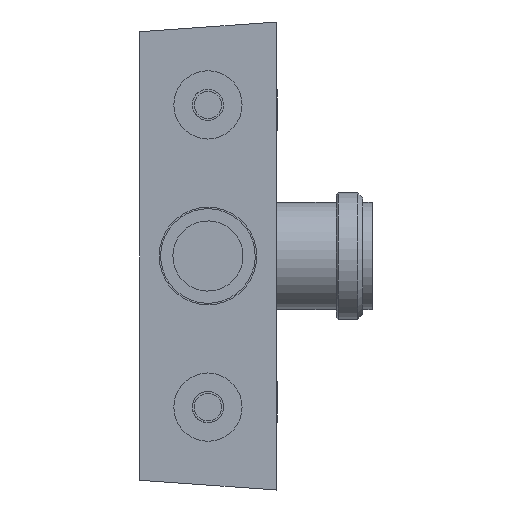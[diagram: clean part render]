
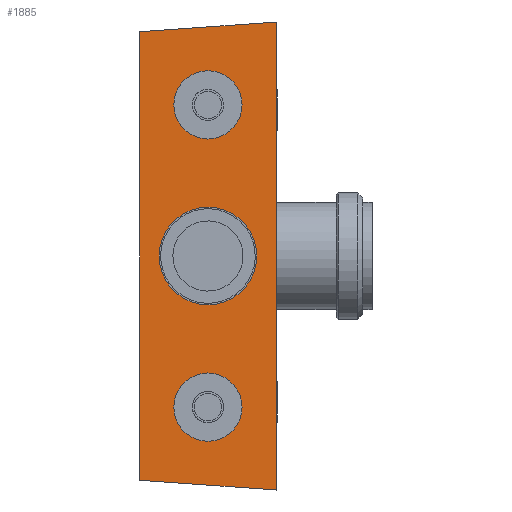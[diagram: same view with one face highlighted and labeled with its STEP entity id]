
A CAD part, front view. The second image highlights one B-rep face of the part: STEP entity #1885.
In plain terms, the highlighted planar face has unit normal (0, -1, 0).
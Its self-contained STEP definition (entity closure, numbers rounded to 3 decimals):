
#117=FACE_BOUND('',#324,.T.);
#118=FACE_BOUND('',#325,.T.);
#119=FACE_BOUND('',#326,.T.);
#163=CIRCLE('',#2122,25.);
#164=CIRCLE('',#2123,17.5);
#165=CIRCLE('',#2124,17.5);
#203=FACE_OUTER_BOUND('',#323,.T.);
#323=EDGE_LOOP('',(#1299,#1300,#1301,#1302));
#324=EDGE_LOOP('',(#1303));
#325=EDGE_LOOP('',(#1304));
#326=EDGE_LOOP('',(#1305));
#487=LINE('',#2762,#671);
#491=LINE('',#2771,#675);
#495=LINE('',#2778,#679);
#496=LINE('',#2779,#680);
#671=VECTOR('',#2275,10.);
#675=VECTOR('',#2281,10.);
#679=VECTOR('',#2287,10.);
#680=VECTOR('',#2288,10.);
#855=VERTEX_POINT('',#2760);
#856=VERTEX_POINT('',#2761);
#859=VERTEX_POINT('',#2769);
#860=VERTEX_POINT('',#2770);
#863=VERTEX_POINT('',#2780);
#864=VERTEX_POINT('',#2782);
#865=VERTEX_POINT('',#2784);
#1037=EDGE_CURVE('',#855,#856,#487,.T.);
#1041=EDGE_CURVE('',#859,#860,#491,.T.);
#1045=EDGE_CURVE('',#859,#856,#495,.T.);
#1046=EDGE_CURVE('',#855,#860,#496,.T.);
#1047=EDGE_CURVE('',#863,#863,#163,.T.);
#1048=EDGE_CURVE('',#864,#864,#164,.T.);
#1049=EDGE_CURVE('',#865,#865,#165,.T.);
#1299=ORIENTED_EDGE('',*,*,#1037,.T.);
#1300=ORIENTED_EDGE('',*,*,#1045,.F.);
#1301=ORIENTED_EDGE('',*,*,#1041,.T.);
#1302=ORIENTED_EDGE('',*,*,#1046,.F.);
#1303=ORIENTED_EDGE('',*,*,#1047,.T.);
#1304=ORIENTED_EDGE('',*,*,#1048,.T.);
#1305=ORIENTED_EDGE('',*,*,#1049,.T.);
#1801=PLANE('',#2121);
#1885=ADVANCED_FACE('',(#203,#117,#118,#119),#1801,.T.);
#2121=AXIS2_PLACEMENT_3D('',#2777,#2285,#2286);
#2122=AXIS2_PLACEMENT_3D('',#2781,#2289,#2290);
#2123=AXIS2_PLACEMENT_3D('',#2783,#2291,#2292);
#2124=AXIS2_PLACEMENT_3D('',#2785,#2293,#2294);
#2275=DIRECTION('',(-0.997,0.,-0.071));
#2281=DIRECTION('',(0.997,0.,-0.071));
#2285=DIRECTION('center_axis',(0.,-1.,0.));
#2286=DIRECTION('ref_axis',(0.,0.,-1.));
#2287=DIRECTION('',(0.,0.,1.));
#2288=DIRECTION('',(0.,0.,-1.));
#2289=DIRECTION('center_axis',(0.,1.,0.));
#2290=DIRECTION('ref_axis',(-1.,0.,0.));
#2291=DIRECTION('center_axis',(0.,1.,0.));
#2292=DIRECTION('ref_axis',(-1.,0.,0.));
#2293=DIRECTION('center_axis',(0.,1.,0.));
#2294=DIRECTION('ref_axis',(-1.,0.,0.));
#2760=CARTESIAN_POINT('',(70.,0.,0.));
#2761=CARTESIAN_POINT('',(0.,0.,-5.));
#2762=CARTESIAN_POINT('',(0.178,0.,-4.987));
#2769=CARTESIAN_POINT('',(0.,0.,-235.));
#2770=CARTESIAN_POINT('',(70.,0.,-240.));
#2771=CARTESIAN_POINT('',(26.65,0.,-236.904));
#2777=CARTESIAN_POINT('Origin',(0.,0.,0.));
#2778=CARTESIAN_POINT('',(0.,0.,-240.));
#2779=CARTESIAN_POINT('',(70.,0.,-240.));
#2780=CARTESIAN_POINT('',(60.,0.,-120.));
#2781=CARTESIAN_POINT('Origin',(35.,0.,-120.));
#2782=CARTESIAN_POINT('',(52.5,0.,-197.5));
#2783=CARTESIAN_POINT('Origin',(35.,0.,-197.5));
#2784=CARTESIAN_POINT('',(52.5,0.,-42.5));
#2785=CARTESIAN_POINT('Origin',(35.,0.,-42.5));
